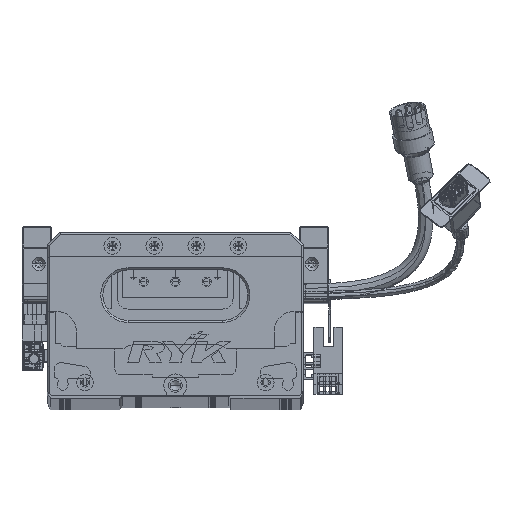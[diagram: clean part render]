
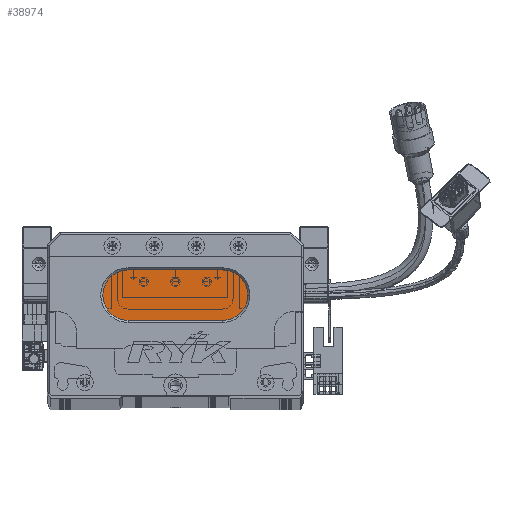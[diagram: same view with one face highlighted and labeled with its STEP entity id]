
A CAD part, top view. The second image highlights one B-rep face of the part: STEP entity #38974.
In plain terms, the highlighted planar face has unit normal (0, 0, 1) as drawn and (0, 0, -1) by its records, which use the part's own axes.
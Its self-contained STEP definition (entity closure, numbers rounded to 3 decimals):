
#2697 = AXIS2_PLACEMENT_3D ( 'NONE', #121313, #43604, #75469 ) ;
#3157 = DIRECTION ( 'NONE',  ( 1., 0., 0. ) ) ;
#3992 = AXIS2_PLACEMENT_3D ( 'NONE', #133685, #30272, #29359 ) ;
#12911 = ORIENTED_EDGE ( 'NONE', *, *, #126690, .T. ) ;
#15749 = DIRECTION ( 'NONE',  ( 0., 0., -1. ) ) ;
#16715 = DIRECTION ( 'NONE',  ( -1., 0., 0. ) ) ;
#23005 = EDGE_LOOP ( 'NONE', ( #127585, #75596, #75021, #12911, #42051 ) ) ;
#23483 = VECTOR ( 'NONE', #16715, 1000. ) ;
#25086 = LINE ( 'NONE', #99253, #58060 ) ;
#25825 = VERTEX_POINT ( 'NONE', #78085 ) ;
#27694 = CARTESIAN_POINT ( 'NONE',  ( 38.5, 48., 13. ) ) ;
#29359 = DIRECTION ( 'NONE',  ( -1., 0., 0. ) ) ;
#30272 = DIRECTION ( 'NONE',  ( 0., 0., -1. ) ) ;
#32109 = VERTEX_POINT ( 'NONE', #37703 ) ;
#35745 = PLANE ( 'NONE',  #92036 ) ;
#37703 = CARTESIAN_POINT ( 'NONE',  ( 83.5, 60., 13. ) ) ;
#37957 = EDGE_CURVE ( 'NONE', #91504, #91318, #103189, .T. ) ;
#38974 = ADVANCED_FACE ( 'NONE', ( #40304 ), #35745, .T. ) ;
#40304 = FACE_OUTER_BOUND ( 'NONE', #23005, .T. ) ;
#42051 = ORIENTED_EDGE ( 'NONE', *, *, #104538, .T. ) ;
#43604 = DIRECTION ( 'NONE',  ( 0., 0., -1. ) ) ;
#47013 = CIRCLE ( 'NONE', #3992, 12. ) ;
#47671 = CARTESIAN_POINT ( 'NONE',  ( 38.5, 36., 13. ) ) ;
#48822 = VERTEX_POINT ( 'NONE', #70895 ) ;
#57472 = CARTESIAN_POINT ( 'NONE',  ( 83.5, 48., 13. ) ) ;
#58060 = VECTOR ( 'NONE', #3157, 1000. ) ;
#68888 = DIRECTION ( 'NONE',  ( -1., 0., 0. ) ) ;
#69403 = CARTESIAN_POINT ( 'NONE',  ( 83.5, 36., 13. ) ) ;
#69559 = CIRCLE ( 'NONE', #2697, 12. ) ;
#70895 = CARTESIAN_POINT ( 'NONE',  ( 38.5, 60., 13. ) ) ;
#75021 = ORIENTED_EDGE ( 'NONE', *, *, #37957, .T. ) ;
#75469 = DIRECTION ( 'NONE',  ( -1., 0., 0. ) ) ;
#75596 = ORIENTED_EDGE ( 'NONE', *, *, #117911, .T. ) ;
#78085 = CARTESIAN_POINT ( 'NONE',  ( 83.5, 36., 13. ) ) ;
#84709 = CARTESIAN_POINT ( 'NONE',  ( 26.5, 48., 13. ) ) ;
#89081 = EDGE_CURVE ( 'NONE', #32109, #25825, #69559, .T. ) ;
#91318 = VERTEX_POINT ( 'NONE', #84709 ) ;
#91504 = VERTEX_POINT ( 'NONE', #47671 ) ;
#92036 = AXIS2_PLACEMENT_3D ( 'NONE', #57472, #113306, #102229 ) ;
#98108 = AXIS2_PLACEMENT_3D ( 'NONE', #27694, #15749, #68888 ) ;
#99253 = CARTESIAN_POINT ( 'NONE',  ( 83.5, 60., 13. ) ) ;
#102229 = DIRECTION ( 'NONE',  ( -1., 0., 0. ) ) ;
#103189 = CIRCLE ( 'NONE', #98108, 12. ) ;
#104538 = EDGE_CURVE ( 'NONE', #48822, #32109, #25086, .T. ) ;
#112767 = LINE ( 'NONE', #69403, #23483 ) ;
#113306 = DIRECTION ( 'NONE',  ( 0., 0., -1. ) ) ;
#117911 = EDGE_CURVE ( 'NONE', #25825, #91504, #112767, .T. ) ;
#121313 = CARTESIAN_POINT ( 'NONE',  ( 83.5, 48., 13. ) ) ;
#126690 = EDGE_CURVE ( 'NONE', #91318, #48822, #47013, .T. ) ;
#127585 = ORIENTED_EDGE ( 'NONE', *, *, #89081, .T. ) ;
#133685 = CARTESIAN_POINT ( 'NONE',  ( 38.5, 48., 13. ) ) ;
